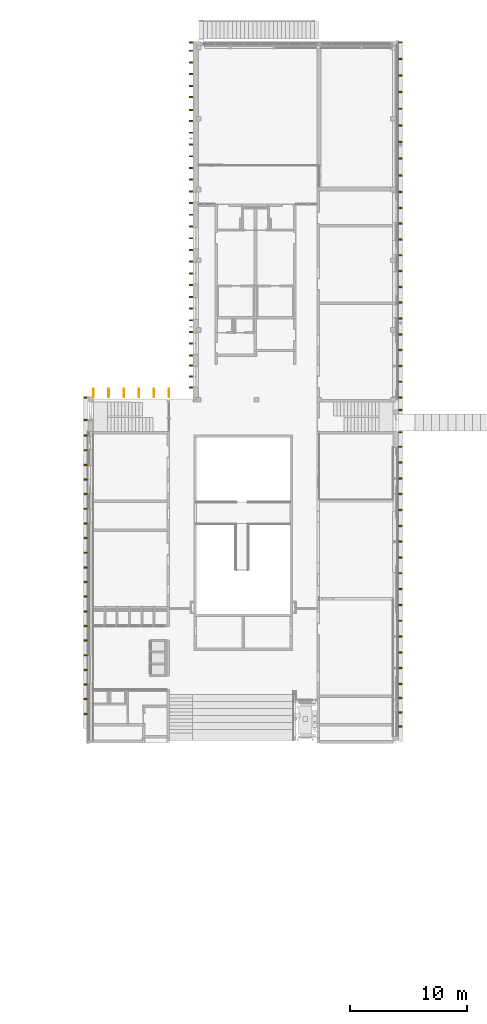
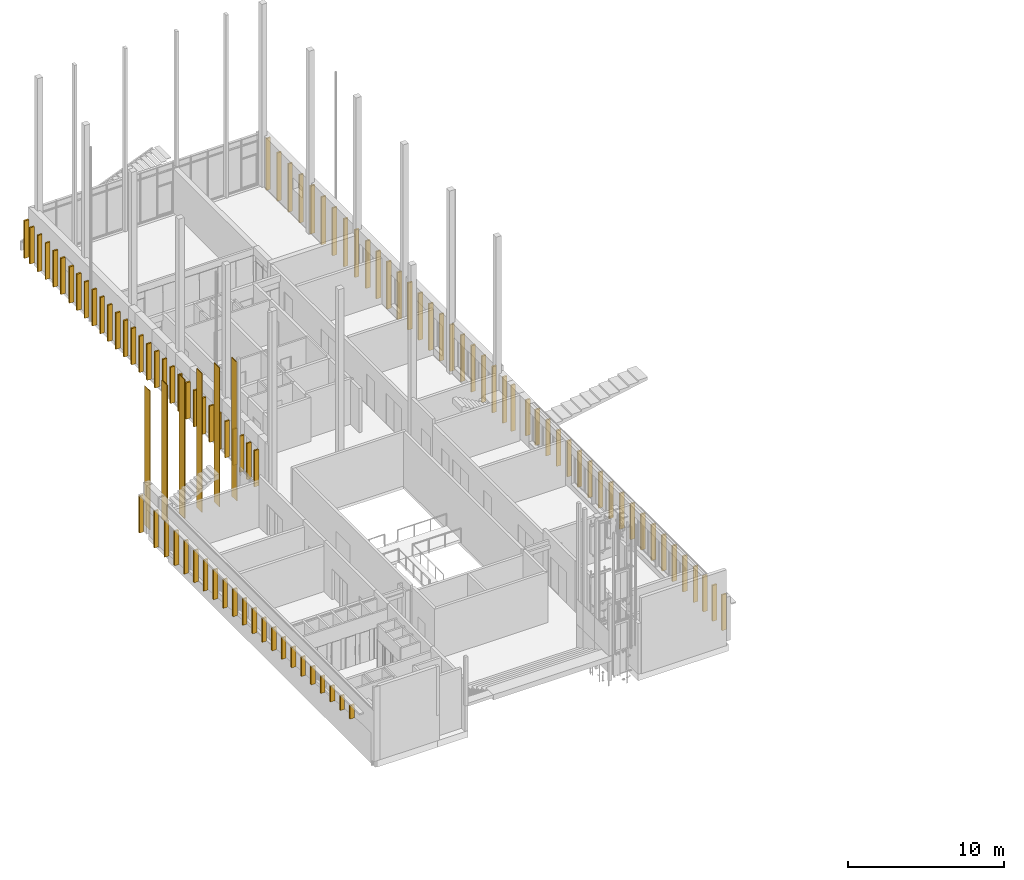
# One storey, part 77 of 89: 103 coverings.
"""IFC2X3 building model written with IfcOpenShell, lengths in millimetres."""

from ifc_helpers import new_model, entity, si_unit, converted_unit, derived_unit, money_unit, direction, frame, origin_with_axes, origin_2d_with_axis, place, context, subcontext, project, spatial, polyline, rectangle, outline, extrude, material, type_object, element, save


model = new_model("IFC2X3")

# Units and contexts
model_context = context("Model", 3, precision=0.01, world=origin_with_axes(), true_north=direction((0.0, 1.0)))
body_context = subcontext(model_context, "Body", "Model", "MODEL_VIEW")
ifc_project = project(units=[si_unit("LENGTHUNIT", "METRE", prefix="MILLI"), si_unit("AREAUNIT", "SQUARE_METRE"), si_unit("VOLUMEUNIT", "CUBIC_METRE"), converted_unit("PLANEANGLEUNIT", "DEGREE", entity("IfcPlaneAngleMeasure", 0.0174532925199), si_unit("PLANEANGLEUNIT", "RADIAN"), dimensions=[0, 0, 0, 0, 0, 0, 0]), si_unit("SOLIDANGLEUNIT", "STERADIAN"), money_unit("EUR"), converted_unit("TIMEUNIT", "Year", entity("IfcTimeMeasure", 31556926.0), si_unit("TIMEUNIT", "SECOND"), dimensions=[0, 0, 1, 0, 0, 0, 0]), si_unit("MASSUNIT", "GRAM", prefix="KILO"), si_unit("THERMODYNAMICTEMPERATUREUNIT", "DEGREE_CELSIUS"), si_unit("LUMINOUSINTENSITYUNIT", "LUMEN"), si_unit("ENERGYUNIT", "JOULE", prefix="MEGA"), derived_unit("THERMALCONDUCTANCEUNIT", [(si_unit("POWERUNIT", "WATT"), 1), (si_unit("LENGTHUNIT", "METRE"), -1), (si_unit("THERMODYNAMICTEMPERATUREUNIT", "KELVIN"), -1)]), derived_unit("SPECIFICHEATCAPACITYUNIT", [(si_unit("ENERGYUNIT", "JOULE"), 1), (si_unit("MASSUNIT", "GRAM", prefix="KILO"), -1), (si_unit("THERMODYNAMICTEMPERATUREUNIT", "KELVIN"), -1)]), derived_unit("MASSDENSITYUNIT", [(si_unit("MASSUNIT", "GRAM", prefix="KILO"), 1), (si_unit("VOLUMEUNIT", "CUBIC_METRE"), -1)])], contexts=[model_context])

# Site, building, storey
site_placement = place(None, origin_with_axes())
site = spatial("IfcSite", under=ifc_project, at=site_placement, Name="Puškini 31, Narva", CompositionType="ELEMENT")
building_placement = place(site_placement, origin_with_axes())
building = spatial("IfcBuilding", under=site, at=building_placement, Name="Narva Riigigümnaasium", CompositionType="ELEMENT")
storey_placement = place(building_placement, frame((0.0, 0.0, -3300.0), z_axis=(0.0, 0.0, 1.0), x_axis=(1.0, 0.0, 0.0)))
storey = spatial("IfcBuildingStorey", under=building, at=storey_placement, Name="1.korrus -3.3", CompositionType="ELEMENT", Elevation=-3300.0)

# Coverings
ifc_material_1 = material(Name="ET-04_Alumiinium")
covering_type_1 = type_object("IfcCoveringType", Name="ET-04_Alumiinium 50", PredefinedType="NOTDEFINED")
covering_1_placement = place(storey_placement, frame((34885.8009822, 224929.987127, 50.0), z_axis=(0.0, 0.0, 1.0), x_axis=(0.0, -1.0, 0.0)))
element("IfcCovering", 1, at=covering_1_placement, inside=storey, type_object=covering_type_1, material=ifc_material_1, Name="Fassaadilamell", PredefinedType="NOTDEFINED", context=body_context, shape_type="SweptSolid", body=[
    extrude(outline(polyline([(0.0, -25.0), (700.0, -25.0), (700.0, 25.0), (0.0, 25.0), (0.0, -25.0)])), origin_with_axes(), (0.0, 0.0, 1.0), 10870.0),
])
for number, where, z_axis, x_axis in (
    (2, (33597.6488131, 224929.987127, 50.0), (0.0, 0.0, 1.0), (0.0, -1.0, 0.0)),
    (3, (32309.4966718, 224929.987127, 50.0), (0.0, 0.0, 1.0), (0.0, -1.0, 0.0)),
    (4, (31021.3444915, 224929.987127, 50.0), (0.0, 0.0, 1.0), (0.0, -1.0, 0.0)),
    (5, (28445.0401116, 224929.987127, 50.0), (0.0, 0.0, 1.0), (0.0, -1.0, 0.0)),
    (6, (29733.1923367, 224929.987127, 50.0), (0.0, 0.0, 1.0), (0.0, -1.0, 0.0)),
):
    element("IfcCovering", number, at=place(storey_placement, frame(where, z_axis=z_axis, x_axis=x_axis)), inside=storey, type_object=covering_type_1, material=ifc_material_1, Name="Fassaadilamell", PredefinedType="NOTDEFINED", context=body_context, shape_type="SweptSolid", body=[
        extrude(outline(polyline([(0.0, -25.0), (699.999999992, -25.0), (699.999999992, 25.0), (0.0, 25.0), (0.0, -25.0)])), origin_with_axes(), (0.0, 0.0, 1.0), 10870.0),
    ])
ifc_material_2 = material(Name="Puitroov")
covering_type_2 = type_object("IfcCoveringType", Name="Puitroov 120 x 320", PredefinedType="NOTDEFINED")
covering_2_placement = place(storey_placement, frame((54643.0000017, 239030.236748, -755.56466014), z_axis=(0.0, 0.0, 1.0), x_axis=(0.0, 1.0, 0.0)))
element("IfcCovering", 7, at=covering_2_placement, inside=storey, type_object=covering_type_2, material=ifc_material_2, Name="Lamell", PredefinedType="NOTDEFINED", context=body_context, shape_type="SweptSolid", body=[
    extrude(rectangle(XDim=120.0, YDim=320.0, at=origin_2d_with_axis()), origin_with_axes(), (0.0, 0.0, 1.0), 3695.5646506),
])
covering_3_placement = place(storey_placement, frame((54643.0000017, 240380.236748, -763.797810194), z_axis=(0.0, 0.0, 1.0), x_axis=(0.0, 1.0, 0.0)))
element("IfcCovering", 8, at=covering_3_placement, inside=storey, type_object=covering_type_2, material=ifc_material_2, Name="Lamell", PredefinedType="NOTDEFINED", context=body_context, shape_type="SweptSolid", body=[
    extrude(rectangle(XDim=120.0, YDim=320.0, at=origin_2d_with_axis()), origin_with_axes(), (0.0, 0.0, 1.0), 3703.79780066),
])
covering_4_placement = place(storey_placement, frame((54643.0000017, 254508.805854, -850.0), z_axis=(0.0, 0.0, 1.0), x_axis=(0.0, 1.0, 0.0)))
element("IfcCovering", 9, at=covering_4_placement, inside=storey, type_object=covering_type_2, material=ifc_material_2, Name="Lamell", PredefinedType="NOTDEFINED", context=body_context, shape_type="SweptSolid", body=[
    extrude(rectangle(XDim=120.0, YDim=320.0, at=origin_2d_with_axis()), origin_with_axes(), (0.0, 0.0, 1.0), 4050.0),
])
covering_5_placement = place(storey_placement, frame((54643.0000017, 253097.853719, -841.357846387), z_axis=(0.0, 0.0, 1.0), x_axis=(0.0, 1.0, 0.0)))
element("IfcCovering", 10, at=covering_5_placement, inside=storey, type_object=covering_type_2, material=ifc_material_2, Name="Lamell", PredefinedType="NOTDEFINED", context=body_context, shape_type="SweptSolid", body=[
    extrude(rectangle(XDim=120.0, YDim=320.0, at=origin_2d_with_axis()), origin_with_axes(), (0.0, 0.0, 1.0), 3781.35783685),
])
covering_6_placement = place(storey_placement, frame((54643.0000017, 251676.901598, -832.69198562), z_axis=(0.0, 0.0, 1.0), x_axis=(0.0, 1.0, 0.0)))
element("IfcCovering", 11, at=covering_6_placement, inside=storey, type_object=covering_type_2, material=ifc_material_2, Name="Lamell", PredefinedType="NOTDEFINED", context=body_context, shape_type="SweptSolid", body=[
    extrude(rectangle(XDim=120.0, YDim=320.0, at=origin_2d_with_axis()), origin_with_axes(), (0.0, 0.0, 1.0), 3772.69197608),
])
covering_7_placement = place(storey_placement, frame((54643.0000017, 250255.949476, -824.026124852), z_axis=(0.0, 0.0, 1.0), x_axis=(0.0, 1.0, 0.0)))
element("IfcCovering", 12, at=covering_7_placement, inside=storey, type_object=covering_type_2, material=ifc_material_2, Name="Lamell", PredefinedType="NOTDEFINED", context=body_context, shape_type="SweptSolid", body=[
    extrude(rectangle(XDim=120.0, YDim=320.0, at=origin_2d_with_axis()), origin_with_axes(), (0.0, 0.0, 1.0), 3764.02611532),
])
covering_8_placement = place(storey_placement, frame((54643.0000017, 248834.997355, -815.360264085), z_axis=(0.0, 0.0, 1.0), x_axis=(0.0, 1.0, 0.0)))
element("IfcCovering", 13, at=covering_8_placement, inside=storey, type_object=covering_type_2, material=ifc_material_2, Name="Lamell", PredefinedType="NOTDEFINED", context=body_context, shape_type="SweptSolid", body=[
    extrude(rectangle(XDim=120.0, YDim=320.0, at=origin_2d_with_axis()), origin_with_axes(), (0.0, 0.0, 1.0), 3755.36025455),
])
covering_9_placement = place(storey_placement, frame((54643.0000017, 247414.045234, -806.694403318), z_axis=(0.0, 0.0, 1.0), x_axis=(0.0, 1.0, 0.0)))
element("IfcCovering", 14, at=covering_9_placement, inside=storey, type_object=covering_type_2, material=ifc_material_2, Name="Lamell", PredefinedType="NOTDEFINED", context=body_context, shape_type="SweptSolid", body=[
    extrude(rectangle(XDim=120.0, YDim=320.0, at=origin_2d_with_axis()), origin_with_axes(), (0.0, 0.0, 1.0), 3746.69439378),
])
covering_10_placement = place(storey_placement, frame((54643.0000017, 245993.093112, -798.028542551), z_axis=(0.0, 0.0, 1.0), x_axis=(0.0, 1.0, 0.0)))
element("IfcCovering", 15, at=covering_10_placement, inside=storey, type_object=covering_type_2, material=ifc_material_2, Name="Lamell", PredefinedType="NOTDEFINED", context=body_context, shape_type="SweptSolid", body=[
    extrude(rectangle(XDim=120.0, YDim=320.0, at=origin_2d_with_axis()), origin_with_axes(), (0.0, 0.0, 1.0), 3738.02853301),
])
covering_11_placement = place(storey_placement, frame((54643.0000017, 244572.140991, -789.362681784), z_axis=(0.0, 0.0, 1.0), x_axis=(0.0, 1.0, 0.0)))
element("IfcCovering", 16, at=covering_11_placement, inside=storey, type_object=covering_type_2, material=ifc_material_2, Name="Lamell", PredefinedType="NOTDEFINED", context=body_context, shape_type="SweptSolid", body=[
    extrude(rectangle(XDim=120.0, YDim=320.0, at=origin_2d_with_axis()), origin_with_axes(), (0.0, 0.0, 1.0), 3729.36267225),
])
covering_12_placement = place(storey_placement, frame((54643.0000017, 243151.18887, -780.696821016), z_axis=(0.0, 0.0, 1.0), x_axis=(0.0, 1.0, 0.0)))
element("IfcCovering", 17, at=covering_12_placement, inside=storey, type_object=covering_type_2, material=ifc_material_2, Name="Lamell", PredefinedType="NOTDEFINED", context=body_context, shape_type="SweptSolid", body=[
    extrude(rectangle(XDim=120.0, YDim=320.0, at=origin_2d_with_axis()), origin_with_axes(), (0.0, 0.0, 1.0), 3720.69681148),
])
covering_13_placement = place(storey_placement, frame((54643.0000017, 241730.236748, -772.030960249), z_axis=(0.0, 0.0, 1.0), x_axis=(0.0, 1.0, 0.0)))
element("IfcCovering", 18, at=covering_13_placement, inside=storey, type_object=covering_type_2, material=ifc_material_2, Name="Lamell", PredefinedType="NOTDEFINED", context=body_context, shape_type="SweptSolid", body=[
    extrude(rectangle(XDim=120.0, YDim=320.0, at=origin_2d_with_axis()), origin_with_axes(), (0.0, 0.0, 1.0), 3712.03095071),
])
covering_14_placement = place(storey_placement, frame((54643.0000017, 237680.236748, -747.331510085), z_axis=(0.0, 0.0, 1.0), x_axis=(0.0, 1.0, 0.0)))
element("IfcCovering", 19, at=covering_14_placement, inside=storey, type_object=covering_type_2, material=ifc_material_2, Name="Lamell", PredefinedType="NOTDEFINED", context=body_context, shape_type="SweptSolid", body=[
    extrude(rectangle(XDim=120.0, YDim=320.0, at=origin_2d_with_axis()), origin_with_axes(), (0.0, 0.0, 1.0), 3687.33150055),
])
covering_15_placement = place(storey_placement, frame((54643.0000017, 236330.236748, -739.09836003), z_axis=(0.0, 0.0, 1.0), x_axis=(0.0, 1.0, 0.0)))
element("IfcCovering", 20, at=covering_15_placement, inside=storey, type_object=covering_type_2, material=ifc_material_2, Name="Lamell", PredefinedType="NOTDEFINED", context=body_context, shape_type="SweptSolid", body=[
    extrude(rectangle(XDim=120.0, YDim=320.0, at=origin_2d_with_axis()), origin_with_axes(), (0.0, 0.0, 1.0), 3679.09835049),
])
covering_16_placement = place(storey_placement, frame((54643.0000017, 234980.236748, -730.865209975), z_axis=(0.0, 0.0, 1.0), x_axis=(0.0, 1.0, 0.0)))
element("IfcCovering", 21, at=covering_16_placement, inside=storey, type_object=covering_type_2, material=ifc_material_2, Name="Lamell", PredefinedType="NOTDEFINED", context=body_context, shape_type="SweptSolid", body=[
    extrude(rectangle(XDim=120.0, YDim=320.0, at=origin_2d_with_axis()), origin_with_axes(), (0.0, 0.0, 1.0), 3670.86520044),
])
covering_17_placement = place(storey_placement, frame((54643.0000017, 233630.236748, -722.63205992), z_axis=(0.0, 0.0, 1.0), x_axis=(0.0, 1.0, 0.0)))
element("IfcCovering", 22, at=covering_17_placement, inside=storey, type_object=covering_type_2, material=ifc_material_2, Name="Lamell", PredefinedType="NOTDEFINED", context=body_context, shape_type="SweptSolid", body=[
    extrude(rectangle(XDim=120.0, YDim=320.0, at=origin_2d_with_axis()), origin_with_axes(), (0.0, 0.0, 1.0), 3662.63205038),
])
covering_18_placement = place(storey_placement, frame((54643.0000017, 232280.236748, -714.398909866), z_axis=(0.0, 0.0, 1.0), x_axis=(0.0, 1.0, 0.0)))
element("IfcCovering", 23, at=covering_18_placement, inside=storey, type_object=covering_type_2, material=ifc_material_2, Name="Lamell", PredefinedType="NOTDEFINED", context=body_context, shape_type="SweptSolid", body=[
    extrude(rectangle(XDim=120.0, YDim=320.0, at=origin_2d_with_axis()), origin_with_axes(), (0.0, 0.0, 1.0), 3654.39890033),
])
covering_19_placement = place(storey_placement, frame((54643.0000017, 230930.236748, -706.165759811), z_axis=(0.0, 0.0, 1.0), x_axis=(0.0, 1.0, 0.0)))
element("IfcCovering", 24, at=covering_19_placement, inside=storey, type_object=covering_type_2, material=ifc_material_2, Name="Lamell", PredefinedType="NOTDEFINED", context=body_context, shape_type="SweptSolid", body=[
    extrude(rectangle(XDim=120.0, YDim=320.0, at=origin_2d_with_axis()), origin_with_axes(), (0.0, 0.0, 1.0), 3646.16575027),
])
covering_20_placement = place(storey_placement, frame((54643.0000017, 229580.236748, -697.932609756), z_axis=(0.0, 0.0, 1.0), x_axis=(0.0, 1.0, 0.0)))
element("IfcCovering", 25, at=covering_20_placement, inside=storey, type_object=covering_type_2, material=ifc_material_2, Name="Lamell", PredefinedType="NOTDEFINED", context=body_context, shape_type="SweptSolid", body=[
    extrude(rectangle(XDim=120.0, YDim=320.0, at=origin_2d_with_axis()), origin_with_axes(), (0.0, 0.0, 1.0), 3637.93260022),
])
covering_21_placement = place(storey_placement, frame((54643.0000017, 228230.236748, -689.699459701), z_axis=(0.0, 0.0, 1.0), x_axis=(0.0, 1.0, 0.0)))
element("IfcCovering", 26, at=covering_21_placement, inside=storey, type_object=covering_type_2, material=ifc_material_2, Name="Lamell", PredefinedType="NOTDEFINED", context=body_context, shape_type="SweptSolid", body=[
    extrude(rectangle(XDim=120.0, YDim=320.0, at=origin_2d_with_axis()), origin_with_axes(), (0.0, 0.0, 1.0), 3629.69945016),
])
covering_22_placement = place(storey_placement, frame((54643.0000017, 226880.236748, -681.466309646), z_axis=(0.0, 0.0, 1.0), x_axis=(0.0, 1.0, 0.0)))
element("IfcCovering", 27, at=covering_22_placement, inside=storey, type_object=covering_type_2, material=ifc_material_2, Name="Lamell", PredefinedType="NOTDEFINED", context=body_context, shape_type="SweptSolid", body=[
    extrude(rectangle(XDim=120.0, YDim=320.0, at=origin_2d_with_axis()), origin_with_axes(), (0.0, 0.0, 1.0), 3621.46630011),
])
covering_23_placement = place(storey_placement, frame((54643.0000017, 225530.236748, -673.233159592), z_axis=(0.0, 0.0, 1.0), x_axis=(0.0, 1.0, 0.0)))
element("IfcCovering", 28, at=covering_23_placement, inside=storey, type_object=covering_type_2, material=ifc_material_2, Name="Lamell", PredefinedType="NOTDEFINED", context=body_context, shape_type="SweptSolid", body=[
    extrude(rectangle(XDim=120.0, YDim=320.0, at=origin_2d_with_axis()), origin_with_axes(), (0.0, 0.0, 1.0), 3613.23315005),
])
covering_24_placement = place(storey_placement, frame((54643.0000017, 224180.236748, -665.000009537), z_axis=(0.0, 0.0, 1.0), x_axis=(0.0, 1.0, 0.0)))
element("IfcCovering", 29, at=covering_24_placement, inside=storey, type_object=covering_type_2, material=ifc_material_2, Name="Lamell", PredefinedType="NOTDEFINED", context=body_context, shape_type="SweptSolid", body=[
    extrude(rectangle(XDim=120.0, YDim=320.0, at=origin_2d_with_axis()), origin_with_axes(), (0.0, 0.0, 1.0), 3605.0),
])
for number, where, z_axis, x_axis in (
    (30, (54643.0000017, 219985.151272, 136.939766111), (0.0, 0.0, 1.0), (0.0, 1.0, 0.0)),
    (31, (54643.0000017, 218635.151272, 136.939766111), (0.0, 0.0, 1.0), (0.0, 1.0, 0.0)),
    (32, (54643.0000017, 217285.151272, 136.939766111), (0.0, 0.0, 1.0), (0.0, 1.0, 0.0)),
    (33, (54643.0000017, 215935.151272, 136.939766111), (0.0, 0.0, 1.0), (0.0, 1.0, 0.0)),
    (34, (54643.0000017, 214585.151272, 136.939766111), (0.0, 0.0, 1.0), (0.0, 1.0, 0.0)),
    (35, (54643.0000017, 213235.151272, 136.939766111), (0.0, 0.0, 1.0), (0.0, 1.0, 0.0)),
    (36, (54643.0000017, 211885.151272, 136.939766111), (0.0, 0.0, 1.0), (0.0, 1.0, 0.0)),
    (37, (54643.0000017, 210535.151272, 136.939766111), (0.0, 0.0, 1.0), (0.0, 1.0, 0.0)),
    (38, (54643.0000017, 209185.151272, 136.939766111), (0.0, 0.0, 1.0), (0.0, 1.0, 0.0)),
    (39, (54643.0000017, 207835.151272, 136.939766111), (0.0, 0.0, 1.0), (0.0, 1.0, 0.0)),
    (40, (54643.0000017, 206485.151272, 136.939766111), (0.0, 0.0, 1.0), (0.0, 1.0, 0.0)),
    (41, (54643.0000017, 205135.151272, 136.939766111), (0.0, 0.0, 1.0), (0.0, 1.0, 0.0)),
    (42, (54643.0000017, 203785.151272, 136.939766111), (0.0, 0.0, 1.0), (0.0, 1.0, 0.0)),
    (43, (54643.0000017, 202435.151272, 136.939766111), (0.0, 0.0, 1.0), (0.0, 1.0, 0.0)),
    (44, (54643.0000017, 201085.151272, 136.939766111), (0.0, 0.0, 1.0), (0.0, 1.0, 0.0)),
    (45, (54643.0000017, 199735.151272, 136.939766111), (0.0, 0.0, 1.0), (0.0, 1.0, 0.0)),
    (46, (54643.0000017, 198523.510035, 136.939766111), (0.0, 0.0, 1.0), (0.0, 1.0, 0.0)),
    (47, (54643.0000017, 197311.868797, 136.939766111), (0.0, 0.0, 1.0), (0.0, 1.0, 0.0)),
    (48, (54643.0000017, 196100.22756, 136.939766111), (0.0, 0.0, 1.0), (0.0, 1.0, 0.0)),
):
    element("IfcCovering", number, at=place(storey_placement, frame(where, z_axis=z_axis, x_axis=x_axis)), inside=storey, type_object=covering_type_2, material=ifc_material_2, Name="Lamell", PredefinedType="NOTDEFINED", context=body_context, shape_type="SweptSolid", body=[
        extrude(rectangle(XDim=120.0, YDim=320.0, at=origin_2d_with_axis()), origin_with_axes(), (0.0, 0.0, 1.0), 2803.06022435),
    ])
covering_25_placement = place(storey_placement, frame((36757.0, 254506.805854, 100.0), z_axis=(0.0, 0.0, 1.0), x_axis=(0.0, 1.0, 0.0)))
element("IfcCovering", 49, at=covering_25_placement, inside=storey, type_object=covering_type_2, material=ifc_material_2, Name="Lamell", PredefinedType="NOTDEFINED", context=body_context, shape_type="SweptSolid", body=[
    extrude(rectangle(XDim=120.0, YDim=320.0, at=origin_2d_with_axis()), origin_with_axes(), (0.0, 0.0, 1.0), 2940.0),
])
for number, where, z_axis, x_axis in (
    (50, (36757.0000002, 240784.212578, 100.0), (0.0, 0.0, 1.0), (0.0, 1.0, 0.0)),
    (51, (36757.0000002, 239784.212578, 100.0), (0.0, 0.0, 1.0), (0.0, 1.0, 0.0)),
    (52, (36757.0000002, 238784.212578, 100.0), (0.0, 0.0, 1.0), (0.0, 1.0, 0.0)),
    (53, (36757.0000002, 237784.212578, 100.0), (0.0, 0.0, 1.0), (0.0, 1.0, 0.0)),
    (54, (36757.0000002, 236784.212578, 100.0), (0.0, 0.0, 1.0), (0.0, 1.0, 0.0)),
    (55, (36757.0000002, 235784.212578, 100.0), (0.0, 0.0, 1.0), (0.0, 1.0, 0.0)),
    (56, (36757.0000002, 234784.212578, 100.0), (0.0, 0.0, 1.0), (0.0, 1.0, 0.0)),
    (57, (36757.0000002, 233784.212578, 100.0), (0.0, 0.0, 1.0), (0.0, 1.0, 0.0)),
    (58, (36757.0000002, 232784.212578, 100.0), (0.0, 0.0, 1.0), (0.0, 1.0, 0.0)),
    (59, (36757.0000002, 231784.212578, 100.0), (0.0, 0.0, 1.0), (0.0, 1.0, 0.0)),
    (60, (36757.0000002, 230784.212578, 100.0), (0.0, 0.0, 1.0), (0.0, 1.0, 0.0)),
    (61, (36757.0000002, 229784.212578, 100.0), (0.0, 0.0, 1.0), (0.0, 1.0, 0.0)),
    (62, (36757.0000002, 228784.212578, 100.0), (0.0, 0.0, 1.0), (0.0, 1.0, 0.0)),
    (63, (36757.0000002, 227784.212578, 100.0), (0.0, 0.0, 1.0), (0.0, 1.0, 0.0)),
    (64, (36757.0000002, 241784.212578, 100.0), (0.0, 0.0, 1.0), (0.0, 1.0, 0.0)),
    (65, (36757.0000002, 242784.212578, 100.0), (0.0, 0.0, 1.0), (0.0, 1.0, 0.0)),
    (66, (36757.0000002, 243784.212578, 100.0), (0.0, 0.0, 1.0), (0.0, 1.0, 0.0)),
    (67, (36757.0000002, 244784.212578, 100.0), (0.0, 0.0, 1.0), (0.0, 1.0, 0.0)),
    (68, (36757.0000002, 245784.212578, 100.0), (0.0, 0.0, 1.0), (0.0, 1.0, 0.0)),
    (69, (36757.0000002, 246784.212578, 100.0), (0.0, 0.0, 1.0), (0.0, 1.0, 0.0)),
    (70, (36757.0000002, 247784.212578, 100.0), (0.0, 0.0, 1.0), (0.0, 1.0, 0.0)),
    (71, (36757.0000002, 248734.212578, 100.0), (0.0, 0.0, 1.0), (0.0, 1.0, 0.0)),
    (72, (36757.0000002, 249834.212578, 100.0), (0.0, 0.0, 1.0), (0.0, 1.0, 0.0)),
    (73, (36757.0000002, 250784.212578, 100.0), (0.0, 0.0, 1.0), (0.0, 1.0, 0.0)),
    (74, (36757.0000002, 251784.212578, 100.0), (0.0, 0.0, 1.0), (0.0, 1.0, 0.0)),
    (75, (36757.0000002, 252784.212578, 100.0), (0.0, 0.0, 1.0), (0.0, 1.0, 0.0)),
    (76, (36757.0000002, 253784.212578, 100.0), (0.0, 0.0, 1.0), (0.0, 1.0, 0.0)),
):
    element("IfcCovering", number, at=place(storey_placement, frame(where, z_axis=z_axis, x_axis=x_axis)), inside=storey, type_object=covering_type_2, material=ifc_material_2, Name="Lamell", PredefinedType="NOTDEFINED", context=body_context, shape_type="SweptSolid", body=[
        extrude(rectangle(XDim=120.0, YDim=320.0, at=origin_2d_with_axis()), origin_with_axes(), (0.0, 0.0, 1.0), 2840.0),
    ])
covering_26_placement = place(storey_placement, frame((27757.0401775, 219689.764301, 336.002735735), z_axis=(0.0, 0.0, 1.0), x_axis=(0.0, 1.0, 0.0)))
element("IfcCovering", 77, at=covering_26_placement, inside=storey, type_object=covering_type_2, material=ifc_material_2, Name="Lamell", PredefinedType="NOTDEFINED", context=body_context, shape_type="SweptSolid", body=[
    extrude(rectangle(XDim=120.0, YDim=320.0, at=origin_2d_with_axis()), origin_with_axes(), (0.0, 0.0, 1.0), 2693.99726426),
])
covering_27_placement = place(storey_placement, frame((27757.0401775, 218439.764301, 427.739088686), z_axis=(0.0, 0.0, 1.0), x_axis=(0.0, 1.0, 0.0)))
element("IfcCovering", 78, at=covering_27_placement, inside=storey, type_object=covering_type_2, material=ifc_material_2, Name="Lamell", PredefinedType="NOTDEFINED", context=body_context, shape_type="SweptSolid", body=[
    extrude(rectangle(XDim=120.0, YDim=320.0, at=origin_2d_with_axis()), origin_with_axes(), (0.0, 0.0, 1.0), 2602.26091131),
])
covering_28_placement = place(storey_placement, frame((27757.0401775, 217189.764301, 519.475441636), z_axis=(0.0, 0.0, 1.0), x_axis=(0.0, 1.0, 0.0)))
element("IfcCovering", 79, at=covering_28_placement, inside=storey, type_object=covering_type_2, material=ifc_material_2, Name="Lamell", PredefinedType="NOTDEFINED", context=body_context, shape_type="SweptSolid", body=[
    extrude(rectangle(XDim=120.0, YDim=320.0, at=origin_2d_with_axis()), origin_with_axes(), (0.0, 0.0, 1.0), 2510.52455836),
])
covering_29_placement = place(storey_placement, frame((27757.0401775, 215939.764301, 611.211794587), z_axis=(0.0, 0.0, 1.0), x_axis=(0.0, 1.0, 0.0)))
element("IfcCovering", 80, at=covering_29_placement, inside=storey, type_object=covering_type_2, material=ifc_material_2, Name="Lamell", PredefinedType="NOTDEFINED", context=body_context, shape_type="SweptSolid", body=[
    extrude(rectangle(XDim=120.0, YDim=320.0, at=origin_2d_with_axis()), origin_with_axes(), (0.0, 0.0, 1.0), 2418.78820541),
])
covering_30_placement = place(storey_placement, frame((27757.0401775, 214689.764301, 702.948147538), z_axis=(0.0, 0.0, 1.0), x_axis=(0.0, 1.0, 0.0)))
element("IfcCovering", 81, at=covering_30_placement, inside=storey, type_object=covering_type_2, material=ifc_material_2, Name="Lamell", PredefinedType="NOTDEFINED", context=body_context, shape_type="SweptSolid", body=[
    extrude(rectangle(XDim=120.0, YDim=320.0, at=origin_2d_with_axis()), origin_with_axes(), (0.0, 0.0, 1.0), 2327.05185246),
])
covering_31_placement = place(storey_placement, frame((27757.0401775, 213439.764301, 794.684500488), z_axis=(0.0, 0.0, 1.0), x_axis=(0.0, 1.0, 0.0)))
element("IfcCovering", 82, at=covering_31_placement, inside=storey, type_object=covering_type_2, material=ifc_material_2, Name="Lamell", PredefinedType="NOTDEFINED", context=body_context, shape_type="SweptSolid", body=[
    extrude(rectangle(XDim=120.0, YDim=320.0, at=origin_2d_with_axis()), origin_with_axes(), (0.0, 0.0, 1.0), 2235.31549951),
])
covering_32_placement = place(storey_placement, frame((27757.0401775, 212189.764301, 886.420853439), z_axis=(0.0, 0.0, 1.0), x_axis=(0.0, 1.0, 0.0)))
element("IfcCovering", 83, at=covering_32_placement, inside=storey, type_object=covering_type_2, material=ifc_material_2, Name="Lamell", PredefinedType="NOTDEFINED", context=body_context, shape_type="SweptSolid", body=[
    extrude(rectangle(XDim=120.0, YDim=320.0, at=origin_2d_with_axis()), origin_with_axes(), (0.0, 0.0, 1.0), 2143.57914656),
])
covering_33_placement = place(storey_placement, frame((27757.0401775, 210939.764301, 978.157206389), z_axis=(0.0, 0.0, 1.0), x_axis=(0.0, 1.0, 0.0)))
element("IfcCovering", 84, at=covering_33_placement, inside=storey, type_object=covering_type_2, material=ifc_material_2, Name="Lamell", PredefinedType="NOTDEFINED", context=body_context, shape_type="SweptSolid", body=[
    extrude(rectangle(XDim=120.0, YDim=320.0, at=origin_2d_with_axis()), origin_with_axes(), (0.0, 0.0, 1.0), 2051.84279361),
])
covering_34_placement = place(storey_placement, frame((27757.0401775, 209689.764301, 1069.89355934), z_axis=(0.0, 0.0, 1.0), x_axis=(0.0, 1.0, 0.0)))
element("IfcCovering", 85, at=covering_34_placement, inside=storey, type_object=covering_type_2, material=ifc_material_2, Name="Lamell", PredefinedType="NOTDEFINED", context=body_context, shape_type="SweptSolid", body=[
    extrude(rectangle(XDim=120.0, YDim=320.0, at=origin_2d_with_axis()), origin_with_axes(), (0.0, 0.0, 1.0), 1960.10644066),
])
covering_35_placement = place(storey_placement, frame((27757.0401775, 208439.764301, 1161.62991229), z_axis=(0.0, 0.0, 1.0), x_axis=(0.0, 1.0, 0.0)))
element("IfcCovering", 86, at=covering_35_placement, inside=storey, type_object=covering_type_2, material=ifc_material_2, Name="Lamell", PredefinedType="NOTDEFINED", context=body_context, shape_type="SweptSolid", body=[
    extrude(rectangle(XDim=120.0, YDim=320.0, at=origin_2d_with_axis()), origin_with_axes(), (0.0, 0.0, 1.0), 1868.37008771),
])
covering_36_placement = place(storey_placement, frame((27757.0401775, 207189.764301, 1253.36626524), z_axis=(0.0, 0.0, 1.0), x_axis=(0.0, 1.0, 0.0)))
element("IfcCovering", 87, at=covering_36_placement, inside=storey, type_object=covering_type_2, material=ifc_material_2, Name="Lamell", PredefinedType="NOTDEFINED", context=body_context, shape_type="SweptSolid", body=[
    extrude(rectangle(XDim=120.0, YDim=320.0, at=origin_2d_with_axis()), origin_with_axes(), (0.0, 0.0, 1.0), 1776.63373476),
])
covering_37_placement = place(storey_placement, frame((27757.0401775, 205939.764301, 1345.10261819), z_axis=(0.0, 0.0, 1.0), x_axis=(0.0, 1.0, 0.0)))
element("IfcCovering", 88, at=covering_37_placement, inside=storey, type_object=covering_type_2, material=ifc_material_2, Name="Lamell", PredefinedType="NOTDEFINED", context=body_context, shape_type="SweptSolid", body=[
    extrude(rectangle(XDim=120.0, YDim=320.0, at=origin_2d_with_axis()), origin_with_axes(), (0.0, 0.0, 1.0), 1684.89738181),
])
covering_38_placement = place(storey_placement, frame((27757.0401775, 204689.764301, 1436.83897114), z_axis=(0.0, 0.0, 1.0), x_axis=(0.0, 1.0, 0.0)))
element("IfcCovering", 89, at=covering_38_placement, inside=storey, type_object=covering_type_2, material=ifc_material_2, Name="Lamell", PredefinedType="NOTDEFINED", context=body_context, shape_type="SweptSolid", body=[
    extrude(rectangle(XDim=120.0, YDim=320.0, at=origin_2d_with_axis()), origin_with_axes(), (0.0, 0.0, 1.0), 1593.16102886),
])
covering_39_placement = place(storey_placement, frame((27757.0401775, 203439.764301, 1528.57532409), z_axis=(0.0, 0.0, 1.0), x_axis=(0.0, 1.0, 0.0)))
element("IfcCovering", 90, at=covering_39_placement, inside=storey, type_object=covering_type_2, material=ifc_material_2, Name="Lamell", PredefinedType="NOTDEFINED", context=body_context, shape_type="SweptSolid", body=[
    extrude(rectangle(XDim=120.0, YDim=320.0, at=origin_2d_with_axis()), origin_with_axes(), (0.0, 0.0, 1.0), 1501.42467591),
])
covering_40_placement = place(storey_placement, frame((27757.0401775, 202189.764301, 1620.31167704), z_axis=(0.0, 0.0, 1.0), x_axis=(0.0, 1.0, 0.0)))
element("IfcCovering", 91, at=covering_40_placement, inside=storey, type_object=covering_type_2, material=ifc_material_2, Name="Lamell", PredefinedType="NOTDEFINED", context=body_context, shape_type="SweptSolid", body=[
    extrude(rectangle(XDim=120.0, YDim=320.0, at=origin_2d_with_axis()), origin_with_axes(), (0.0, 0.0, 1.0), 1409.68832296),
])
covering_41_placement = place(storey_placement, frame((27757.0401775, 200939.764301, 1712.04802999), z_axis=(0.0, 0.0, 1.0), x_axis=(0.0, 1.0, 0.0)))
element("IfcCovering", 92, at=covering_41_placement, inside=storey, type_object=covering_type_2, material=ifc_material_2, Name="Lamell", PredefinedType="NOTDEFINED", context=body_context, shape_type="SweptSolid", body=[
    extrude(rectangle(XDim=120.0, YDim=320.0, at=origin_2d_with_axis()), origin_with_axes(), (0.0, 0.0, 1.0), 1317.95197001),
])
covering_42_placement = place(storey_placement, frame((27757.0401775, 199689.764301, 1803.78438294), z_axis=(0.0, 0.0, 1.0), x_axis=(0.0, 1.0, 0.0)))
element("IfcCovering", 93, at=covering_42_placement, inside=storey, type_object=covering_type_2, material=ifc_material_2, Name="Lamell", PredefinedType="NOTDEFINED", context=body_context, shape_type="SweptSolid", body=[
    extrude(rectangle(XDim=120.0, YDim=320.0, at=origin_2d_with_axis()), origin_with_axes(), (0.0, 0.0, 1.0), 1226.21561706),
])
covering_43_placement = place(storey_placement, frame((27757.0401775, 198439.764301, 1895.52073589), z_axis=(0.0, 0.0, 1.0), x_axis=(0.0, 1.0, 0.0)))
element("IfcCovering", 94, at=covering_43_placement, inside=storey, type_object=covering_type_2, material=ifc_material_2, Name="Lamell", PredefinedType="NOTDEFINED", context=body_context, shape_type="SweptSolid", body=[
    extrude(rectangle(XDim=120.0, YDim=320.0, at=origin_2d_with_axis()), origin_with_axes(), (0.0, 0.0, 1.0), 1134.47926411),
])
covering_44_placement = place(storey_placement, frame((27757.0401775, 197189.764301, 1987.25708885), z_axis=(0.0, 0.0, 1.0), x_axis=(0.0, 1.0, 0.0)))
element("IfcCovering", 95, at=covering_44_placement, inside=storey, type_object=covering_type_2, material=ifc_material_2, Name="Lamell", PredefinedType="NOTDEFINED", context=body_context, shape_type="SweptSolid", body=[
    extrude(rectangle(XDim=120.0, YDim=320.0, at=origin_2d_with_axis()), origin_with_axes(), (0.0, 0.0, 1.0), 1042.74291115),
])
covering_45_placement = place(storey_placement, frame((27757.0401775, 220939.764301, 244.266382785), z_axis=(0.0, 0.0, 1.0), x_axis=(0.0, 1.0, 0.0)))
element("IfcCovering", 96, at=covering_45_placement, inside=storey, type_object=covering_type_2, material=ifc_material_2, Name="Lamell", PredefinedType="NOTDEFINED", context=body_context, shape_type="SweptSolid", body=[
    extrude(rectangle(XDim=120.0, YDim=320.0, at=origin_2d_with_axis()), origin_with_axes(), (0.0, 0.0, 1.0), 2785.73361722),
])
covering_46_placement = place(storey_placement, frame((27757.0401775, 222278.741711, 149.999812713), z_axis=(0.0, 0.0, 1.0), x_axis=(0.0, 1.0, 0.0)))
element("IfcCovering", 97, at=covering_46_placement, inside=storey, type_object=covering_type_2, material=ifc_material_2, Name="Lamell", PredefinedType="NOTDEFINED", context=body_context, shape_type="SweptSolid", body=[
    extrude(rectangle(XDim=120.0, YDim=320.0, at=origin_2d_with_axis()), origin_with_axes(), (0.0, 0.0, 1.0), 2880.00018729),
])
covering_47_placement = place(storey_placement, frame((27757.0401775, 224200.000005, 149.999812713), z_axis=(0.0, 0.0, 1.0), x_axis=(0.0, 1.0, 0.0)))
element("IfcCovering", 98, at=covering_47_placement, inside=storey, type_object=covering_type_2, material=ifc_material_2, Name="Lamell", PredefinedType="NOTDEFINED", context=body_context, shape_type="SweptSolid", body=[
    extrude(rectangle(XDim=120.0, YDim=320.0, at=origin_2d_with_axis()), origin_with_axes(), (0.0, 0.0, 1.0), 2880.0),
])
covering_48_placement = place(storey_placement, frame((54643.0000017, 223120.236748, -665.000009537), z_axis=(0.0, 0.0, 1.0), x_axis=(0.0, 1.0, 0.0)))
element("IfcCovering", 99, at=covering_48_placement, inside=storey, type_object=covering_type_2, material=ifc_material_2, Name="Lamell", PredefinedType="NOTDEFINED", context=body_context, shape_type="SweptSolid", body=[
    extrude(rectangle(XDim=120.0, YDim=320.0, at=origin_2d_with_axis()), origin_with_axes(), (0.0, 0.0, 1.0), 3605.0),
])
covering_49_placement = place(storey_placement, frame((54643.0000017, 221219.999999, 136.939766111), z_axis=(0.0, 0.0, 1.0), x_axis=(0.0, 1.0, 0.0)))
element("IfcCovering", 100, at=covering_49_placement, inside=storey, type_object=covering_type_2, material=ifc_material_2, Name="Lamell", PredefinedType="NOTDEFINED", context=body_context, shape_type="SweptSolid", body=[
    extrude(rectangle(XDim=120.0, YDim=320.0, at=origin_2d_with_axis()), origin_with_axes(), (0.0, 0.0, 1.0), 2803.06022435),
])
for number, where, z_axis, x_axis in (
    (101, (36757.0000002, 226906.000005, 100.0), (0.0, 0.0, 1.0), (0.0, 1.0, 0.0)),
    (102, (36757.0000002, 225971.000005, 100.0), (0.0, 0.0, 1.0), (0.0, 1.0, 0.0)),
    (103, (36757.0000002, 225036.000005, 100.0), (0.0, 0.0, 1.0), (0.0, 1.0, 0.0)),
):
    element("IfcCovering", number, at=place(storey_placement, frame(where, z_axis=z_axis, x_axis=x_axis)), inside=storey, type_object=covering_type_2, material=ifc_material_2, Name="Lamell", PredefinedType="NOTDEFINED", context=body_context, shape_type="SweptSolid", body=[
        extrude(rectangle(XDim=120.0, YDim=320.0, at=origin_2d_with_axis()), origin_with_axes(), (0.0, 0.0, 1.0), 2840.0),
    ])

save(model, "model.ifc")
